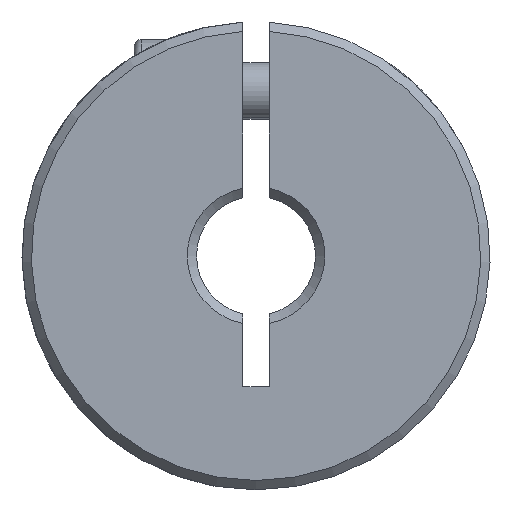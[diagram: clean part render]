
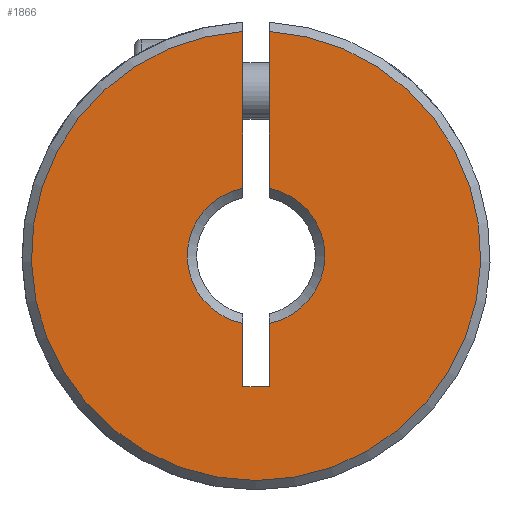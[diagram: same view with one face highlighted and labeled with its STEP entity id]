
A CAD part, front view. The second image highlights one B-rep face of the part: STEP entity #1866.
In plain terms, the highlighted planar face has unit normal (0, -1, 0).
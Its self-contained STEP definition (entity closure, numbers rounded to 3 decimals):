
#100 = AXIS2_PLACEMENT_3D ( 'NONE', #997, #4813, #1052 ) ;
#116 = ORIENTED_EDGE ( 'NONE', *, *, #1839, .T. ) ;
#118 = ORIENTED_EDGE ( 'NONE', *, *, #4358, .T. ) ;
#233 = LINE ( 'NONE', #3865, #1623 ) ;
#330 = LINE ( 'NONE', #3280, #1450 ) ;
#375 = ORIENTED_EDGE ( 'NONE', *, *, #3559, .F. ) ;
#423 = VECTOR ( 'NONE', #3017, 1000. ) ;
#458 = PLANE ( 'NONE',  #3343 ) ;
#997 = CARTESIAN_POINT ( 'NONE',  ( 0., 0.25, 0. ) ) ;
#1000 = ORIENTED_EDGE ( 'NONE', *, *, #4336, .F. ) ;
#1052 = DIRECTION ( 'NONE',  ( 0., 0., 1. ) ) ;
#1111 = LINE ( 'NONE', #4007, #3380 ) ;
#1138 = DIRECTION ( 'NONE',  ( 0., 0., -1. ) ) ;
#1149 = ORIENTED_EDGE ( 'NONE', *, *, #5142, .T. ) ;
#1182 = VERTEX_POINT ( 'NONE', #5084 ) ;
#1299 = AXIS2_PLACEMENT_3D ( 'NONE', #2260, #1823, #4341 ) ;
#1450 = VECTOR ( 'NONE', #1995, 1000. ) ;
#1558 = LINE ( 'NONE', #3227, #423 ) ;
#1575 = VERTEX_POINT ( 'NONE', #2669 ) ;
#1623 = VECTOR ( 'NONE', #5193, 1000. ) ;
#1641 = VERTEX_POINT ( 'NONE', #5332 ) ;
#1717 = DIRECTION ( 'NONE',  ( 0., -1., 0. ) ) ;
#1823 = DIRECTION ( 'NONE',  ( 0., 1., 0. ) ) ;
#1839 = EDGE_CURVE ( 'NONE', #1575, #3471, #3523, .T. ) ;
#1866 = ADVANCED_FACE ( 'NONE', ( #2554 ), #458, .F. ) ;
#1995 = DIRECTION ( 'NONE',  ( 0., 0., 1. ) ) ;
#2044 = ORIENTED_EDGE ( 'NONE', *, *, #3189, .F. ) ;
#2260 = CARTESIAN_POINT ( 'NONE',  ( 0., 0.25, 0. ) ) ;
#2325 = ORIENTED_EDGE ( 'NONE', *, *, #4057, .F. ) ;
#2554 = FACE_OUTER_BOUND ( 'NONE', #4318, .T. ) ;
#2669 = CARTESIAN_POINT ( 'NONE',  ( -0.7, 0.25, 11.98 ) ) ;
#3011 = AXIS2_PLACEMENT_3D ( 'NONE', #3344, #1717, #5004 ) ;
#3017 = DIRECTION ( 'NONE',  ( 0., 0., -1. ) ) ;
#3045 = CIRCLE ( 'NONE', #1299, 3.675 ) ;
#3189 = EDGE_CURVE ( 'NONE', #4169, #3471, #330, .T. ) ;
#3195 = CIRCLE ( 'NONE', #100, 3.675 ) ;
#3227 = CARTESIAN_POINT ( 'NONE',  ( -0.7, 0.25, -7. ) ) ;
#3280 = CARTESIAN_POINT ( 'NONE',  ( 0.7, 0.25, -7. ) ) ;
#3343 = AXIS2_PLACEMENT_3D ( 'NONE', #3761, #4599, #3791 ) ;
#3344 = CARTESIAN_POINT ( 'NONE',  ( 0., 0.25, 0. ) ) ;
#3367 = CARTESIAN_POINT ( 'NONE',  ( 0.7, 0.25, -3.608 ) ) ;
#3380 = VECTOR ( 'NONE', #1138, 1000. ) ;
#3471 = VERTEX_POINT ( 'NONE', #3703 ) ;
#3523 = CIRCLE ( 'NONE', #3011, 12. ) ;
#3559 = EDGE_CURVE ( 'NONE', #1575, #1182, #1558, .T. ) ;
#3585 = CARTESIAN_POINT ( 'NONE',  ( -0.7, 0.25, -3.608 ) ) ;
#3703 = CARTESIAN_POINT ( 'NONE',  ( 0.7, 0.25, 11.98 ) ) ;
#3761 = CARTESIAN_POINT ( 'NONE',  ( 12.5, 0.25, -50. ) ) ;
#3791 = DIRECTION ( 'NONE',  ( 0., 0., 1. ) ) ;
#3855 = DIRECTION ( 'NONE',  ( 0., 0., 1. ) ) ;
#3865 = CARTESIAN_POINT ( 'NONE',  ( 0.7, 0.25, -7. ) ) ;
#3883 = VERTEX_POINT ( 'NONE', #3585 ) ;
#3975 = VERTEX_POINT ( 'NONE', #3367 ) ;
#4007 = CARTESIAN_POINT ( 'NONE',  ( -0.7, 0.25, -7. ) ) ;
#4057 = EDGE_CURVE ( 'NONE', #4957, #1641, #233, .T. ) ;
#4064 = CARTESIAN_POINT ( 'NONE',  ( 0.7, 0.25, 3.608 ) ) ;
#4169 = VERTEX_POINT ( 'NONE', #4064 ) ;
#4218 = CARTESIAN_POINT ( 'NONE',  ( 0.7, 0.25, -7. ) ) ;
#4318 = EDGE_LOOP ( 'NONE', ( #2044, #118, #1000, #2325, #5140, #1149, #375, #116 ) ) ;
#4336 = EDGE_CURVE ( 'NONE', #1641, #3975, #5072, .T. ) ;
#4341 = DIRECTION ( 'NONE',  ( 0., 0., 1. ) ) ;
#4358 = EDGE_CURVE ( 'NONE', #4169, #3975, #3195, .T. ) ;
#4398 = VECTOR ( 'NONE', #3855, 1000. ) ;
#4599 = DIRECTION ( 'NONE',  ( 0., 1., 0. ) ) ;
#4619 = CARTESIAN_POINT ( 'NONE',  ( -0.7, 0.25, -7. ) ) ;
#4813 = DIRECTION ( 'NONE',  ( 0., 1., 0. ) ) ;
#4957 = VERTEX_POINT ( 'NONE', #4619 ) ;
#5004 = DIRECTION ( 'NONE',  ( 0., 0., 1. ) ) ;
#5072 = LINE ( 'NONE', #4218, #4398 ) ;
#5084 = CARTESIAN_POINT ( 'NONE',  ( -0.7, 0.25, 3.608 ) ) ;
#5140 = ORIENTED_EDGE ( 'NONE', *, *, #5319, .F. ) ;
#5142 = EDGE_CURVE ( 'NONE', #3883, #1182, #3045, .T. ) ;
#5193 = DIRECTION ( 'NONE',  ( 1., 0., 0. ) ) ;
#5319 = EDGE_CURVE ( 'NONE', #3883, #4957, #1111, .T. ) ;
#5332 = CARTESIAN_POINT ( 'NONE',  ( 0.7, 0.25, -7. ) ) ;
